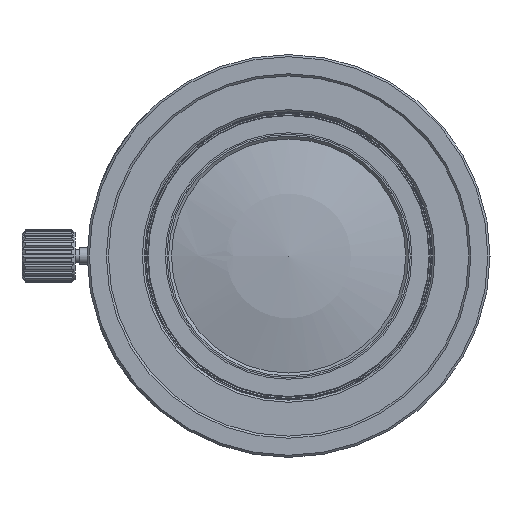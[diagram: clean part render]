
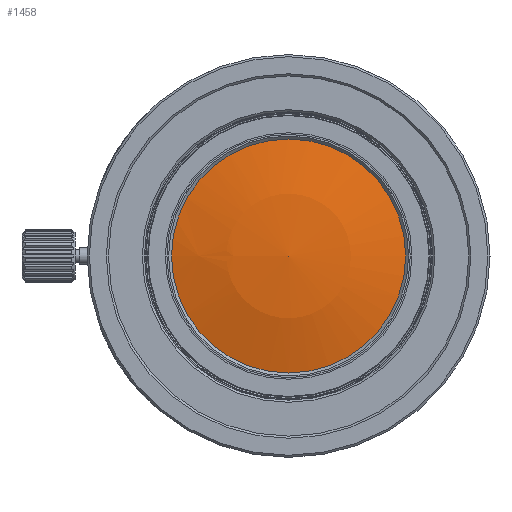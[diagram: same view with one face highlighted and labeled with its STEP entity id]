
A CAD part, left-side view. The second image highlights one B-rep face of the part: STEP entity #1458.
In plain terms, the highlighted spherical face has radius 43.901 mm.
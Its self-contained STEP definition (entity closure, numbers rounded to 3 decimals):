
#86=SPHERICAL_SURFACE('',#6012,43.901);
#401=FACE_OUTER_BOUND('',#2389,.T.);
#1458=ADVANCED_FACE('',(#401),#86,.T.);
#2389=EDGE_LOOP('',(#3351));
#3351=ORIENTED_EDGE('',*,*,#5104,.F.);
#4465=VERTEX_POINT('',#8895);
#5104=EDGE_CURVE('',#4465,#4465,#5643,.T.);
#5643=CIRCLE('',#6010,11.65);
#6010=AXIS2_PLACEMENT_3D('',#8894,#6918,#6919);
#6012=AXIS2_PLACEMENT_3D('',#8897,#6922,#6923);
#6918=DIRECTION('',(1.,0.,0.));
#6919=DIRECTION('',(0.,0.,-1.));
#6922=DIRECTION('',(1.,0.,0.));
#6923=DIRECTION('',(0.,1.,0.));
#8894=CARTESIAN_POINT('',(-68.309,0.,0.));
#8895=CARTESIAN_POINT('',(-68.309,0.,-11.65));
#8897=CARTESIAN_POINT('',(-25.982,0.,0.));
